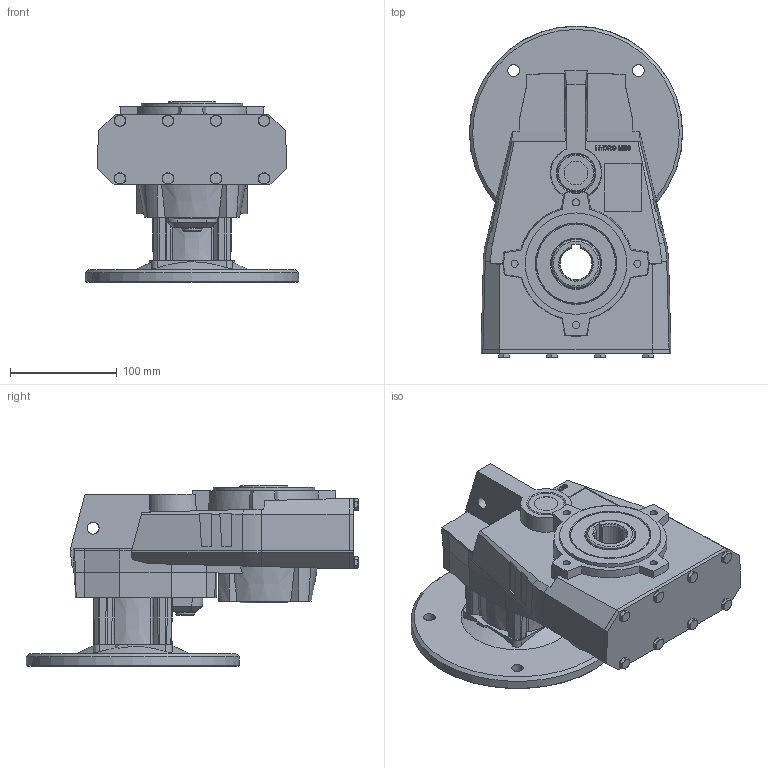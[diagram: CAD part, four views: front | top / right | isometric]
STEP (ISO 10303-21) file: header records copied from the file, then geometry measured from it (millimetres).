
FILE_DESCRIPTION( ( 'Unknown' ), '1' );
FILE_NAME( 'E:/services/configuratordownloads/customers/hydromec/flach/download/D0102DB121EEFCAFF5697876A58731B4/STEP/D0102DB121EEFCAFF5697876A58731B4.3d.stp', 'Unknown', ( 'Unknown' ), ( 'Unknown' ), 'PSStep 10.1', 'Unknown', ' ' );
FILE_SCHEMA( ( 'AUTOMOTIVE_DESIGN { 1 0 10303 214 1 1 1 1 }' ) );
Length unit declared in the file: millimetre
Products named in the file (1): F408800_ST
Bounding box: 199.97 x 311.18 x 169.5 mm (x, y, z)
Volume: 3134228 mm3; surface area: 265075 mm2
Topology: 1 solids, 22 shells, 791 faces, 1901 edges, 1225 vertices
Faces by surface type: plane 516, cone 118, cylinder 102, torus 33, bspline 22
Full cylindrical faces by diameter (mm): 4.917 x20, 5 x1, 6.647 x16, 7.15 x4, 8.9 x8, 10 x6, 11 x5, 11.5 x3, 13.5 x1, 18 x1, 19 x1, 20 x1, 22 x1, 35 x2, 45.05 x2, 47 x2, 95 x1, 130 x1
Entity records: 31739 total; most frequent: CARTESIAN_POINT 7852, DIRECTION 3523, ORIENTED_EDGE 3454, EDGE_CURVE 1727, AXIS2_PLACEMENT_3D 1273, VERTEX_POINT 1196, EDGE_LOOP 1018, LINE 977
